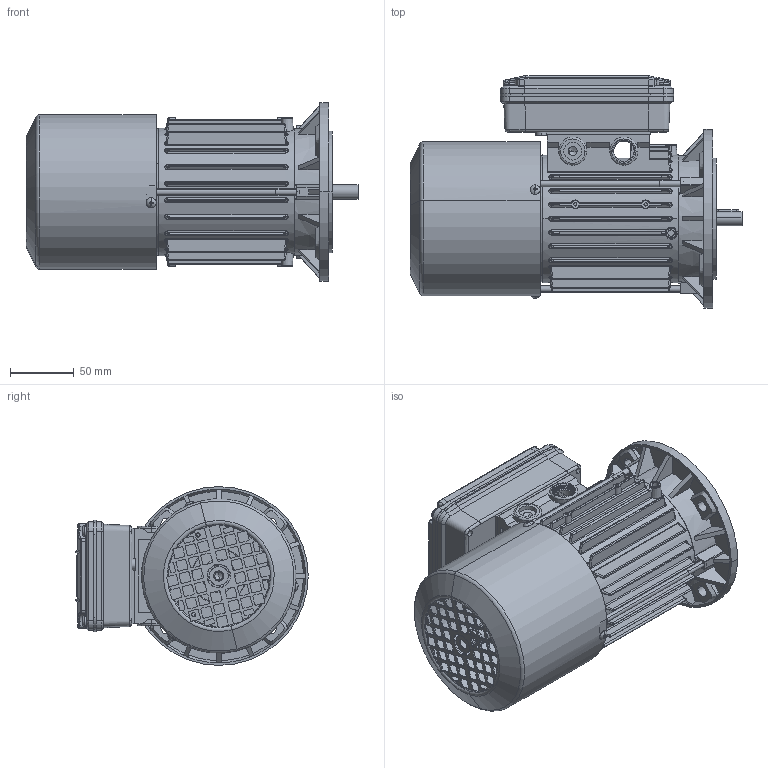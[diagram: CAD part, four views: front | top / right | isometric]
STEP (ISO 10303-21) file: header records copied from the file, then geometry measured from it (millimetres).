
FILE_DESCRIPTION (( 'STEP AP214' ), '1' );
FILE_NAME ('BM 63 B5 - DM.STEP', '2018-10-24T10:22:03', ( '' ), ( '' ), 'SwSTEP 2.0', 'SolidWorks 2018', '' );
FILE_SCHEMA (( 'AUTOMOTIVE_DESIGN' ));
Length unit declared in the file: millimetre
Products named in the file (15): Albero BM 63; Carcassa 63 B5; BM 63 B5 - DM; Scatola per Morsettiera Doppia 63-71-80 - Completa; Guarnizione Scatola Singola 63-71-80; Guarnizione Doppia Scatola gr. 63-71-80 - DBAM0094; Vite per coperchio morsettiera; Coperchio per Scatola per Morsettiera Doppia 63-71-80; Scatola per Morsettiera Doppia 63-71-80; Vite testa rotonda M3; Cuffia BM 63 - DAA20098; Tirante BM 63; Scudo a flangia B5 Fi 140 BM 63 - DAAA0094; Chiavetta 63; Scudo Lato Freno BM 63 - DAAE0094
Assembly tree (21 placements, depth 3):
  BM 63 B5 - DM
    Carcassa 63 B5
    Albero BM 63
    Scudo Lato Freno BM 63 - DAAE0094
    Chiavetta 63
    Scudo a flangia B5 Fi 140 BM 63 - DAAA0094
    Tirante BM 63  x3
    Cuffia BM 63 - DAA20098
    Vite testa rotonda M3  x3
    Scatola per Morsettiera Doppia 63-71-80 - Completa
      Scatola per Morsettiera Doppia 63-71-80
      Coperchio per Scatola per Morsettiera Doppia 63-71-80
      Vite per coperchio morsettiera  x4
      Guarnizione Doppia Scatola gr. 63-71-80 - DBAM0094
      Guarnizione Scatola Singola 63-71-80
Bounding box: 259.99 x 182 x 140 mm (x, y, z)
Volume: 612226.8 mm3; surface area: 415933.5 mm2
Topology: 23 solids, 23 shells, 3117 faces, 8337 edges, 5210 vertices
Faces by surface type: cylinder 1055, plane 1011, bspline 399, torus 313, cone 227, sphere 112
Entity records: 108188 total; most frequent: CARTESIAN_POINT 40686, ORIENTED_EDGE 14794, DIRECTION 13032, EDGE_CURVE 7397, AXIS2_PLACEMENT_3D 5015, VERTEX_POINT 4694, EDGE_LOOP 3073, LINE 3002
